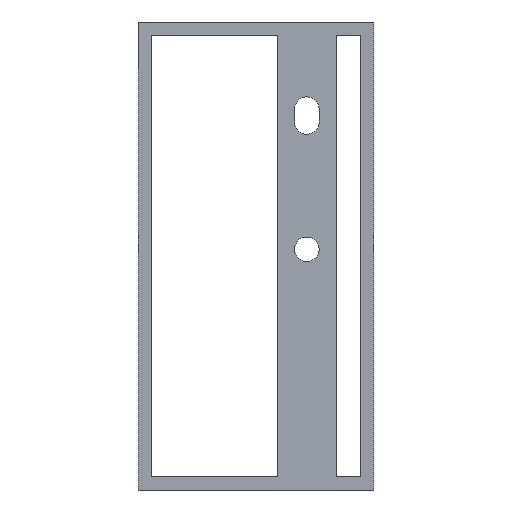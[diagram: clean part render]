
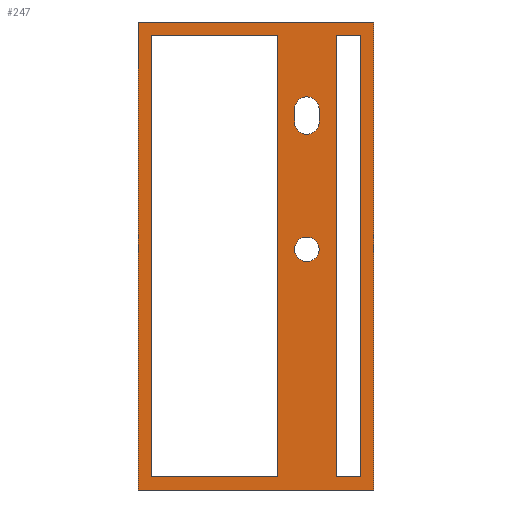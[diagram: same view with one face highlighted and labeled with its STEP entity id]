
A CAD part, front view. The second image highlights one B-rep face of the part: STEP entity #247.
In plain terms, the highlighted planar face has unit normal (0, -1, 0).
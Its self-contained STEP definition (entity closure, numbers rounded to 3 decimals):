
#24 = VERTEX_POINT('',#25);
#25 = CARTESIAN_POINT('',(74.,0.,5.));
#31 = EDGE_CURVE('',#24,#32,#34,.T.);
#32 = VERTEX_POINT('',#33);
#33 = CARTESIAN_POINT('',(74.,0.,170.));
#34 = LINE('',#35,#36);
#35 = CARTESIAN_POINT('',(74.,0.,0.));
#36 = VECTOR('',#37,1.);
#37 = DIRECTION('',(0.,0.,1.));
#61 = EDGE_CURVE('',#62,#24,#64,.T.);
#62 = VERTEX_POINT('',#63);
#63 = CARTESIAN_POINT('',(83.,0.,5.));
#64 = LINE('',#65,#66);
#65 = CARTESIAN_POINT('',(83.,0.,5.));
#66 = VECTOR('',#67,1.);
#67 = DIRECTION('',(-1.,0.,0.));
#227 = EDGE_CURVE('',#228,#32,#230,.T.);
#228 = VERTEX_POINT('',#229);
#229 = CARTESIAN_POINT('',(83.,0.,170.));
#230 = LINE('',#231,#232);
#231 = CARTESIAN_POINT('',(83.,0.,170.));
#232 = VECTOR('',#233,1.);
#233 = DIRECTION('',(-1.,0.,0.));
#247 = ADVANCED_FACE('',(#248,#282,#316,#327,#338),#374,.T.);
#248 = FACE_BOUND('',#249,.T.);
#249 = EDGE_LOOP('',(#250,#260,#268,#276));
#250 = ORIENTED_EDGE('',*,*,#251,.F.);
#251 = EDGE_CURVE('',#252,#254,#256,.T.);
#252 = VERTEX_POINT('',#253);
#253 = CARTESIAN_POINT('',(88.,0.,0.));
#254 = VERTEX_POINT('',#255);
#255 = CARTESIAN_POINT('',(0.,0.,0.));
#256 = LINE('',#257,#258);
#257 = CARTESIAN_POINT('',(88.,0.,0.));
#258 = VECTOR('',#259,1.);
#259 = DIRECTION('',(-1.,0.,0.));
#260 = ORIENTED_EDGE('',*,*,#261,.T.);
#261 = EDGE_CURVE('',#252,#262,#264,.T.);
#262 = VERTEX_POINT('',#263);
#263 = CARTESIAN_POINT('',(88.,0.,175.));
#264 = LINE('',#265,#266);
#265 = CARTESIAN_POINT('',(88.,0.,0.));
#266 = VECTOR('',#267,1.);
#267 = DIRECTION('',(0.,0.,1.));
#268 = ORIENTED_EDGE('',*,*,#269,.T.);
#269 = EDGE_CURVE('',#262,#270,#272,.T.);
#270 = VERTEX_POINT('',#271);
#271 = CARTESIAN_POINT('',(0.,0.,175.));
#272 = LINE('',#273,#274);
#273 = CARTESIAN_POINT('',(88.,0.,175.));
#274 = VECTOR('',#275,1.);
#275 = DIRECTION('',(-1.,0.,0.));
#276 = ORIENTED_EDGE('',*,*,#277,.F.);
#277 = EDGE_CURVE('',#254,#270,#278,.T.);
#278 = LINE('',#279,#280);
#279 = CARTESIAN_POINT('',(0.,0.,0.));
#280 = VECTOR('',#281,1.);
#281 = DIRECTION('',(0.,0.,1.));
#282 = FACE_BOUND('',#283,.T.);
#283 = EDGE_LOOP('',(#284,#294,#302,#310));
#284 = ORIENTED_EDGE('',*,*,#285,.T.);
#285 = EDGE_CURVE('',#286,#288,#290,.T.);
#286 = VERTEX_POINT('',#287);
#287 = CARTESIAN_POINT('',(5.,0.,5.));
#288 = VERTEX_POINT('',#289);
#289 = CARTESIAN_POINT('',(5.,0.,170.));
#290 = LINE('',#291,#292);
#291 = CARTESIAN_POINT('',(5.,0.,0.));
#292 = VECTOR('',#293,1.);
#293 = DIRECTION('',(0.,0.,1.));
#294 = ORIENTED_EDGE('',*,*,#295,.F.);
#295 = EDGE_CURVE('',#296,#288,#298,.T.);
#296 = VERTEX_POINT('',#297);
#297 = CARTESIAN_POINT('',(52.,0.,170.));
#298 = LINE('',#299,#300);
#299 = CARTESIAN_POINT('',(83.,0.,170.));
#300 = VECTOR('',#301,1.);
#301 = DIRECTION('',(-1.,0.,0.));
#302 = ORIENTED_EDGE('',*,*,#303,.F.);
#303 = EDGE_CURVE('',#304,#296,#306,.T.);
#304 = VERTEX_POINT('',#305);
#305 = CARTESIAN_POINT('',(52.,0.,5.));
#306 = LINE('',#307,#308);
#307 = CARTESIAN_POINT('',(52.,0.,0.));
#308 = VECTOR('',#309,1.);
#309 = DIRECTION('',(0.,0.,1.));
#310 = ORIENTED_EDGE('',*,*,#311,.T.);
#311 = EDGE_CURVE('',#304,#286,#312,.T.);
#312 = LINE('',#313,#314);
#313 = CARTESIAN_POINT('',(83.,0.,5.));
#314 = VECTOR('',#315,1.);
#315 = DIRECTION('',(-1.,0.,0.));
#316 = FACE_BOUND('',#317,.T.);
#317 = EDGE_LOOP('',(#318));
#318 = ORIENTED_EDGE('',*,*,#319,.T.);
#319 = EDGE_CURVE('',#320,#320,#322,.T.);
#320 = VERTEX_POINT('',#321);
#321 = CARTESIAN_POINT('',(58.4,0.,90.));
#322 = CIRCLE('',#323,4.6);
#323 = AXIS2_PLACEMENT_3D('',#324,#325,#326);
#324 = CARTESIAN_POINT('',(63.,0.,90.));
#325 = DIRECTION('',(0.,1.,0.));
#326 = DIRECTION('',(-1.,0.,0.));
#327 = FACE_BOUND('',#328,.T.);
#328 = EDGE_LOOP('',(#329,#330,#331,#337));
#329 = ORIENTED_EDGE('',*,*,#31,.T.);
#330 = ORIENTED_EDGE('',*,*,#227,.F.);
#331 = ORIENTED_EDGE('',*,*,#332,.F.);
#332 = EDGE_CURVE('',#62,#228,#333,.T.);
#333 = LINE('',#334,#335);
#334 = CARTESIAN_POINT('',(83.,0.,0.));
#335 = VECTOR('',#336,1.);
#336 = DIRECTION('',(0.,0.,1.));
#337 = ORIENTED_EDGE('',*,*,#61,.T.);
#338 = FACE_BOUND('',#339,.T.);
#339 = EDGE_LOOP('',(#340,#350,#359,#367));
#340 = ORIENTED_EDGE('',*,*,#341,.T.);
#341 = EDGE_CURVE('',#342,#344,#346,.T.);
#342 = VERTEX_POINT('',#343);
#343 = CARTESIAN_POINT('',(67.6,0.,142.4));
#344 = VERTEX_POINT('',#345);
#345 = CARTESIAN_POINT('',(67.6,0.,137.6));
#346 = LINE('',#347,#348);
#347 = CARTESIAN_POINT('',(67.6,0.,112.55));
#348 = VECTOR('',#349,1.);
#349 = DIRECTION('',(0.,0.,-1.));
#350 = ORIENTED_EDGE('',*,*,#351,.T.);
#351 = EDGE_CURVE('',#344,#352,#354,.T.);
#352 = VERTEX_POINT('',#353);
#353 = CARTESIAN_POINT('',(58.4,0.,137.6));
#354 = CIRCLE('',#355,4.6);
#355 = AXIS2_PLACEMENT_3D('',#356,#357,#358);
#356 = CARTESIAN_POINT('',(63.,0.,137.6));
#357 = DIRECTION('',(0.,1.,0.));
#358 = DIRECTION('',(-1.,0.,0.));
#359 = ORIENTED_EDGE('',*,*,#360,.F.);
#360 = EDGE_CURVE('',#361,#352,#363,.T.);
#361 = VERTEX_POINT('',#362);
#362 = CARTESIAN_POINT('',(58.4,0.,142.4));
#363 = LINE('',#364,#365);
#364 = CARTESIAN_POINT('',(58.4,0.,112.55));
#365 = VECTOR('',#366,1.);
#366 = DIRECTION('',(0.,0.,-1.));
#367 = ORIENTED_EDGE('',*,*,#368,.T.);
#368 = EDGE_CURVE('',#361,#342,#369,.T.);
#369 = CIRCLE('',#370,4.6);
#370 = AXIS2_PLACEMENT_3D('',#371,#372,#373);
#371 = CARTESIAN_POINT('',(63.,0.,142.4));
#372 = DIRECTION('',(0.,1.,0.));
#373 = DIRECTION('',(-1.,0.,0.));
#374 = PLANE('',#375);
#375 = AXIS2_PLACEMENT_3D('',#376,#377,#378);
#376 = CARTESIAN_POINT('',(44.,0.,87.5));
#377 = DIRECTION('',(0.,-1.,0.));
#378 = DIRECTION('',(1.,0.,0.));
